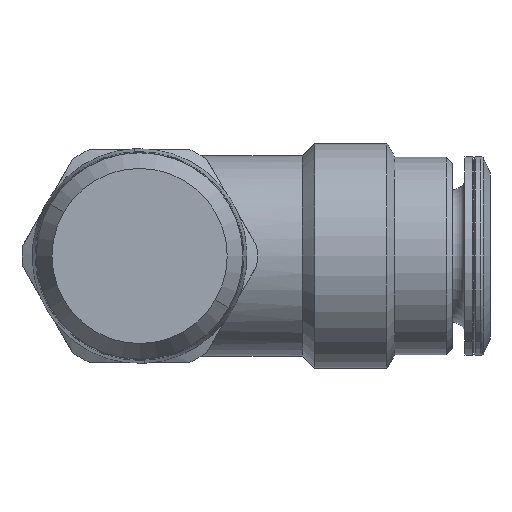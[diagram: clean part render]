
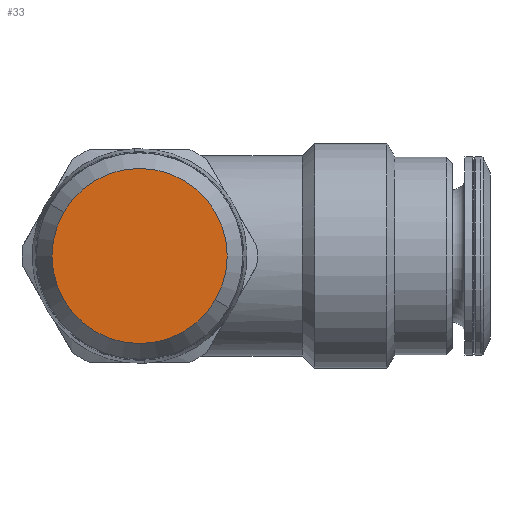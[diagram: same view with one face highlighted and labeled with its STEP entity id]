
A CAD part, front view. The second image highlights one B-rep face of the part: STEP entity #33.
In plain terms, the highlighted planar face has unit normal (0, -1, 0).
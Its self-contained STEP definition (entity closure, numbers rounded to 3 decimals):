
#33 = ADVANCED_FACE ( 'NONE', ( #6202 ), #1618, .T. ) ;
#184 = ORIENTED_EDGE ( 'NONE', *, *, #2267, .T. ) ;
#447 = DIRECTION ( 'NONE',  ( 0., -1., 0. ) ) ;
#510 = DIRECTION ( 'NONE',  ( 0., -1., 0. ) ) ;
#626 = CARTESIAN_POINT ( 'NONE',  ( 6.062, -25.7, -3.5 ) ) ;
#655 = DIRECTION ( 'NONE',  ( 0., -1., 0. ) ) ;
#666 = CARTESIAN_POINT ( 'NONE',  ( -6.062, -25.7, 3.5 ) ) ;
#1618 = PLANE ( 'NONE',  #2822 ) ;
#2095 = DIRECTION ( 'NONE',  ( -0.866, 0., 0.5 ) ) ;
#2179 = CIRCLE ( 'NONE', #4735, 7. ) ;
#2267 = EDGE_CURVE ( 'NONE', #4286, #5731, #2508, .T. ) ;
#2508 = CIRCLE ( 'NONE', #3953, 7. ) ;
#2513 = CARTESIAN_POINT ( 'NONE',  ( 0., -25.7, 0. ) ) ;
#2822 = AXIS2_PLACEMENT_3D ( 'NONE', #2513, #655, #2095 ) ;
#3055 = EDGE_LOOP ( 'NONE', ( #6057, #184 ) ) ;
#3953 = AXIS2_PLACEMENT_3D ( 'NONE', #5270, #447, #4828 ) ;
#4286 = VERTEX_POINT ( 'NONE', #666 ) ;
#4735 = AXIS2_PLACEMENT_3D ( 'NONE', #4911, #510, #5343 ) ;
#4828 = DIRECTION ( 'NONE',  ( -0.866, 0., 0.5 ) ) ;
#4911 = CARTESIAN_POINT ( 'NONE',  ( 0., -25.7, 0. ) ) ;
#5014 = EDGE_CURVE ( 'NONE', #5731, #4286, #2179, .T. ) ;
#5270 = CARTESIAN_POINT ( 'NONE',  ( 0., -25.7, 0. ) ) ;
#5343 = DIRECTION ( 'NONE',  ( -0.866, 0., 0.5 ) ) ;
#5731 = VERTEX_POINT ( 'NONE', #626 ) ;
#6057 = ORIENTED_EDGE ( 'NONE', *, *, #5014, .T. ) ;
#6202 = FACE_OUTER_BOUND ( 'NONE', #3055, .T. ) ;
